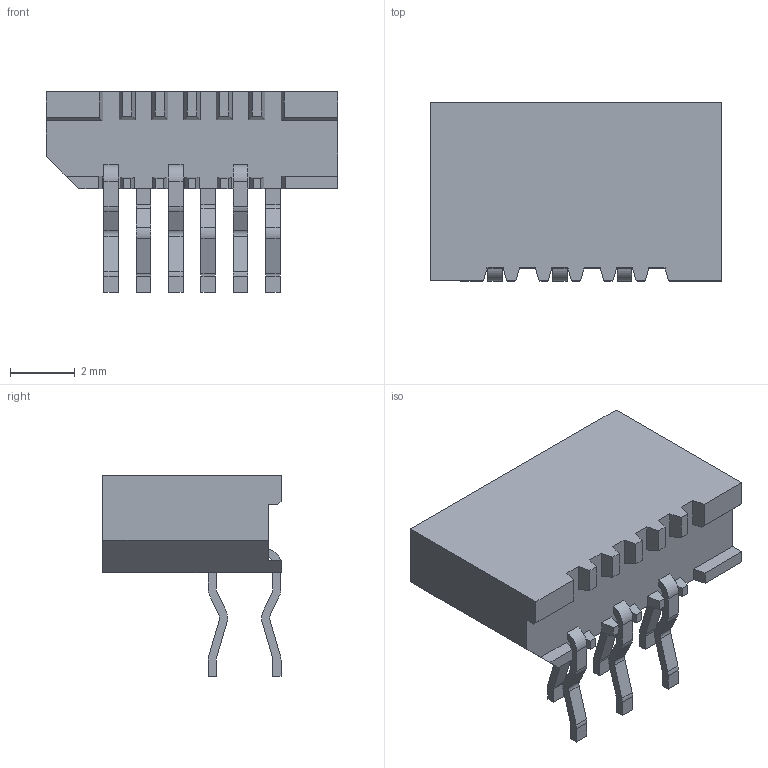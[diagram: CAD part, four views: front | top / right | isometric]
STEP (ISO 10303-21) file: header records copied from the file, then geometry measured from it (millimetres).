
FILE_DESCRIPTION (( 'STEP AP214' ), '1' );
FILE_NAME ('006232006102.STEP', '2023-09-14T04:27:45', ( '' ), ( '' ), 'SwSTEP 2.0', 'SolidWorks 2021', '' );
FILE_SCHEMA (( 'AUTOMOTIVE_DESIGN' ));
Length unit declared in the file: millimetre
Products named in the file (1): 006232006102
Bounding box: 9 x 5.5 x 6.2 mm (x, y, z)
Volume: 125.8 mm3; surface area: 274.4 mm2
Topology: 1 solids, 1 shells, 182 faces, 525 edges, 352 vertices
Faces by surface type: plane 139, cylinder 43
Entity records: 6008 total; most frequent: CARTESIAN_POINT 1273, ORIENTED_EDGE 1050, DIRECTION 868, EDGE_CURVE 525, VECTOR 406, LINE 406, VERTEX_POINT 352, AXIS2_PLACEMENT_3D 231
